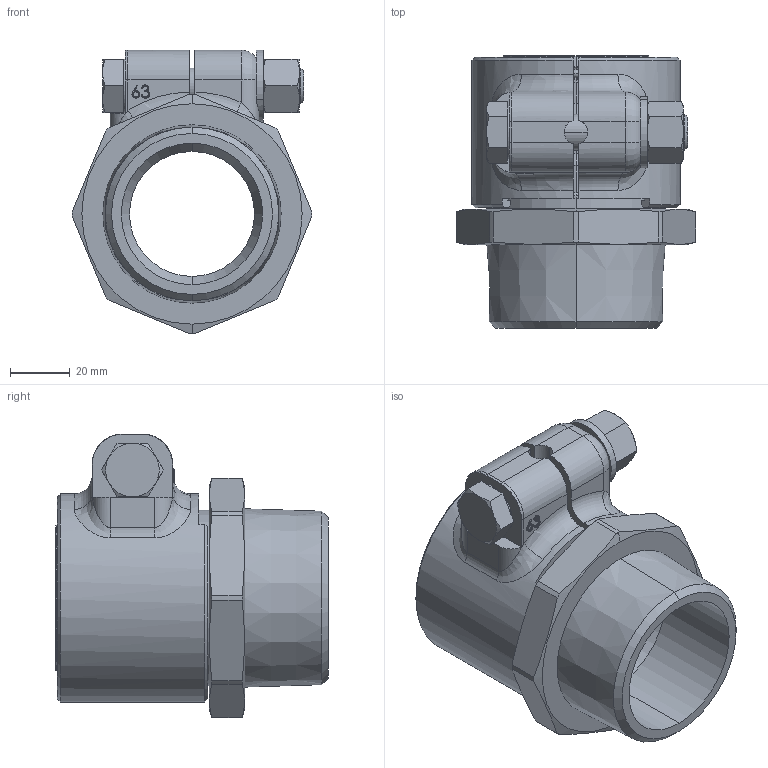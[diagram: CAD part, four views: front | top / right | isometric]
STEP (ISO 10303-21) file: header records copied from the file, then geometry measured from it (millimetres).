
FILE_DESCRIPTION (( 'STEP AP203' ), '1' );
FILE_NAME ('KP_C14-63MS.step', '2011-08-08T12:03:33', ( '' ), ( '' ), 'SwSTEP 2.0', 'SolidWorks 2011', '' );
FILE_SCHEMA (( 'CONFIG_CONTROL_DESIGN' ));
Length unit declared in the file: millimetre
Products named in the file (1): KP_C14-63MS
Bounding box: 80.5 x 91.5 x 95.25 mm (x, y, z)
Volume: 159246.1 mm3; surface area: 70225.5 mm2
Topology: 3 solids, 3 shells, 320 faces, 773 edges, 464 vertices
Faces by surface type: cylinder 96, plane 88, bspline 50, cone 48, torus 30, sphere 8
Entity records: 12689 total; most frequent: CARTESIAN_POINT 5458, ORIENTED_EDGE 1530, DIRECTION 1460, EDGE_CURVE 765, AXIS2_PLACEMENT_3D 589, VERTEX_POINT 464, EDGE_LOOP 339, ADVANCED_FACE 320
